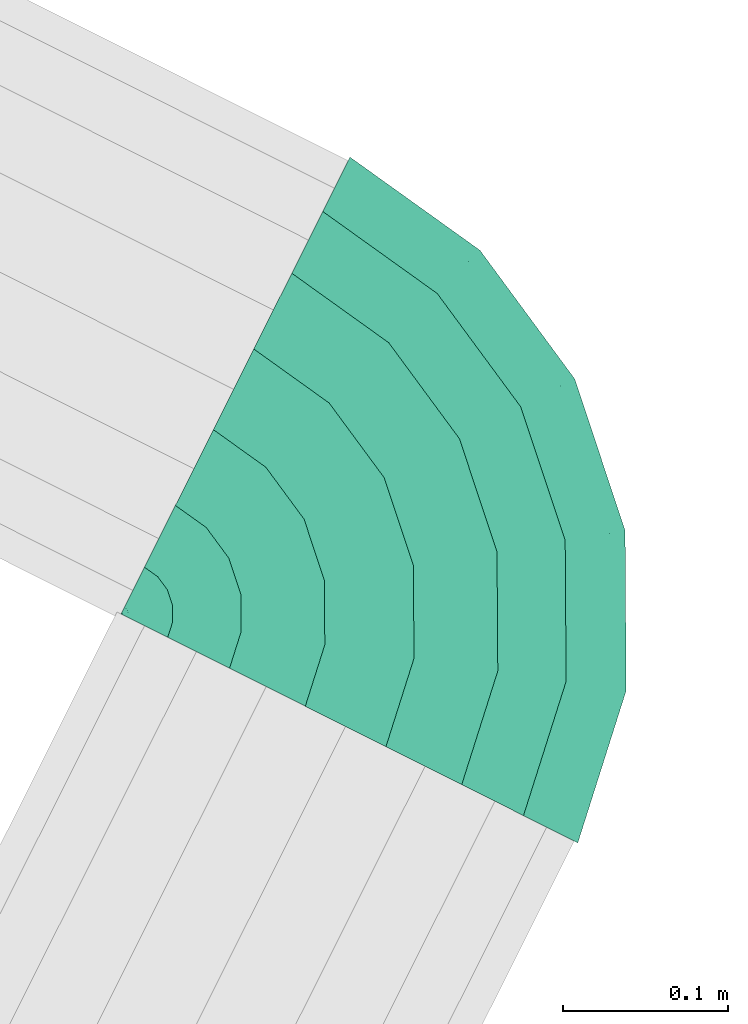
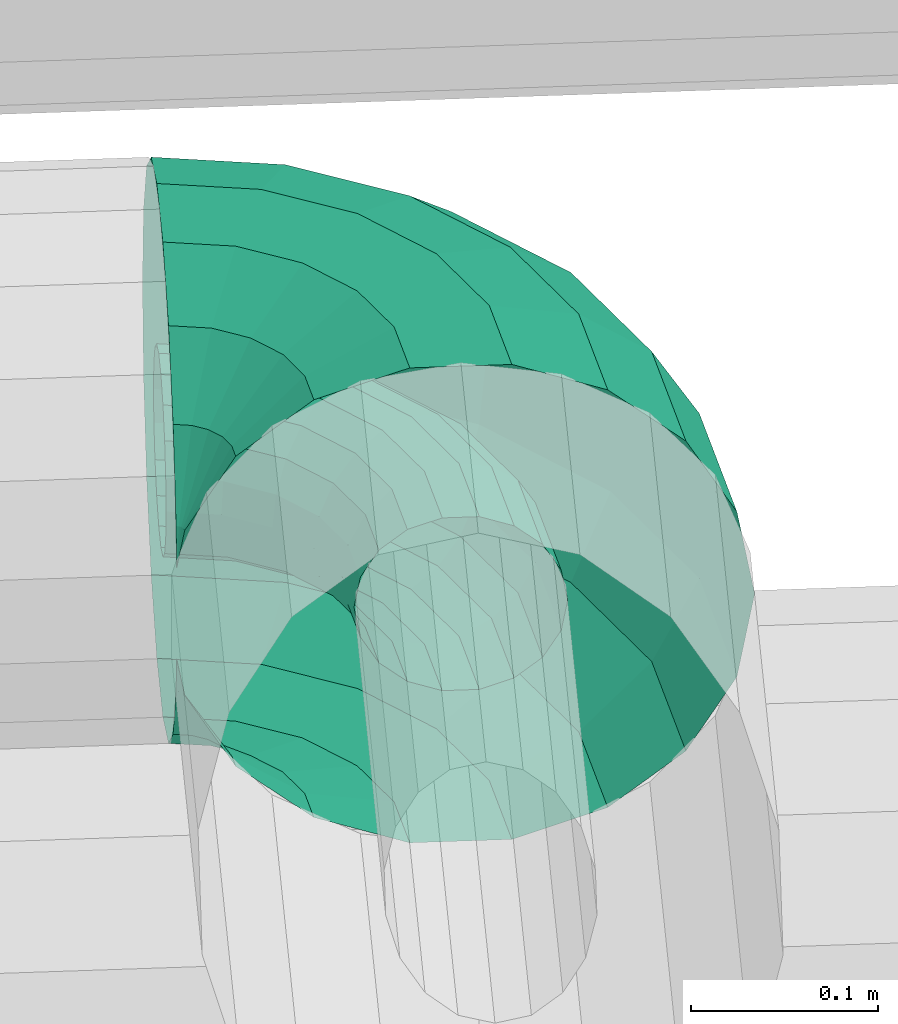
# One storey, part 57 of 152: 1 flow segment.
"""IFC2X3 building model written with IfcOpenShell, lengths in metres."""

import ifcopenshell
import ifcopenshell.guid

model = None  # the IFC model being written
_history = None  # IfcOwnerHistory: only IFC2X3 demands one
_inside = {}  # id of a spatial element -> (the spatial element, [elements in it])
_under = {}  # id of a project, library or spatial element -> (it, [spatial elements below it])
_declared = {}  # id of a project -> (the project, [libraries it declares])
_typed = {}  # id of a type object -> (the type object, [elements of that type])
_made_of = {}  # id of a material, layer set ... -> (it, [elements and type objects made of it])


def new_model(schema):
    """Start an empty IFC model of exactly this schema.

    Asked for "IFC4X3", IfcOpenShell would pick the latest addendum, in which some entities
    have other attributes; the version numbers below select the first issue.
    IFC2X3 requires an IfcOwnerHistory on every rooted entity: one is made here for all.
    """
    global model, _history
    if schema == "IFC4X3":
        model = ifcopenshell.file(schema_version=(4, 3, 0, 0))
    else:
        model = ifcopenshell.file(schema=schema)
    _inside.clear()
    _under.clear()
    _declared.clear()
    _typed.clear()
    _made_of.clear()
    _history = None
    if model.schema == "IFC2X3":
        org = make("IfcOrganization", Name="unknown")
        user = make(
            "IfcPersonAndOrganization",
            ThePerson=make("IfcPerson", FamilyName="unknown"),
            TheOrganization=org,
        )
        app = make(
            "IfcApplication",
            ApplicationDeveloper=org,
            Version="unknown",
            ApplicationFullName="unknown",
            ApplicationIdentifier="unknown",
        )
        _history = make(
            "IfcOwnerHistory",
            OwningUser=user,
            OwningApplication=app,
            ChangeAction="ADDED",
            CreationDate=0,
        )
    return model


def make(cls, **values):
    """One entity of the class cls with the attributes given. An attribute that is None is left unset."""
    return model.create_entity(
        cls, **{name: value for name, value in values.items() if value is not None}
    )


def rooted(cls, **values):
    """An entity with a GlobalId (a new one), such as an element, a storey or a relation."""
    return make(cls, GlobalId=ifcopenshell.guid.new(), OwnerHistory=_history, **values)


def si_unit(unit_type, name, prefix=None):
    """IfcSIUnit, for example si_unit("LENGTHUNIT", "METRE", prefix="MILLI")."""
    return make("IfcSIUnit", UnitType=unit_type, Prefix=prefix, Name=name)


def derived_unit(unit_type, elements):
    """IfcDerivedUnit: a product of units, each with its exponent."""
    return make(
        "IfcDerivedUnit",
        Elements=[
            make("IfcDerivedUnitElement", Unit=unit, Exponent=power)
            for unit, power in elements
        ],
        UnitType=unit_type,
    )


def assignment(units):
    """IfcUnitAssignment: the units of a project."""
    return None if units is None else make("IfcUnitAssignment", Units=units)


def point(xyz):
    """IfcCartesianPoint."""
    return None if xyz is None else make("IfcCartesianPoint", Coordinates=xyz)


def direction(xyz):
    """IfcDirection."""
    return None if xyz is None else make("IfcDirection", DirectionRatios=xyz)


def frame(location, z_axis=None, x_axis=None):
    """IfcAxis2Placement3D, a coordinate frame: its origin and axes. An axis left out is left unset."""
    return make(
        "IfcAxis2Placement3D",
        Location=point(location),
        Axis=direction(z_axis),
        RefDirection=direction(x_axis),
    )


def origin():
    """The frame at (0, 0, 0) with its axes left unset."""
    return frame((0.0, 0.0, 0.0))


def place(relative_to, where):
    """IfcLocalPlacement: puts the frame where relative to a parent placement (None: the world)."""
    return make(
        "IfcLocalPlacement", PlacementRelTo=relative_to, RelativePlacement=where
    )


def context(
    kind, dimensions, precision=None, world=None, true_north=None, identifier=None
):
    """IfcGeometricRepresentationContext, for example the 3D "Model" context."""
    return make(
        "IfcGeometricRepresentationContext",
        ContextIdentifier=identifier,
        ContextType=kind,
        CoordinateSpaceDimension=dimensions,
        Precision=precision,
        WorldCoordinateSystem=world,
        TrueNorth=true_north,
    )


def subcontext(parent, identifier, kind, view, scale=None):
    """IfcGeometricRepresentationSubContext, for example "Body" below "Model"."""
    return make(
        "IfcGeometricRepresentationSubContext",
        ContextIdentifier=identifier,
        ContextType=kind,
        ParentContext=parent,
        TargetScale=scale,
        TargetView=view,
    )


def project(units=None, contexts=None):
    """IfcProject with its units and contexts."""
    return rooted(
        "IfcProject",
        Name="project",
        RepresentationContexts=contexts,
        UnitsInContext=assignment(units),
    )


def spatial(cls, under=None, at=None, **own):
    """A site, building, storey or space (cls), placed at a placement, below another one or the project."""
    s = rooted(cls, ObjectPlacement=at, **own)
    if under is not None:
        _under.setdefault(under.id(), (under, []))[1].append(s)
    return s


def faces_of(points, faces, orient=None, outer=None):
    """IfcFace entities. A face is a list of loops; a loop is a list of indices into points, from 0.

    orient and outer hold one flag for each loop. By default every Orientation is true, the
    first loop of a face is its IfcFaceOuterBound and the others are IfcFaceBound.
    """
    made = []
    for i, loops in enumerate(faces):
        bounds = []
        for j, loop in enumerate(loops):
            is_outer = j == 0 if outer is None else outer[i][j]
            bounds.append(
                make(
                    "IfcFaceOuterBound" if is_outer else "IfcFaceBound",
                    Bound=make("IfcPolyLoop", Polygon=[points[k] for k in loop]),
                    Orientation=True if orient is None else orient[i][j],
                )
            )
        made.append(make("IfcFace", Bounds=bounds))
    return made


def face_set(faces, orient=None, outer=None):
    """The faces of one IfcConnectedFaceSet. surface_model builds it on its shared points."""
    return ("IfcConnectedFaceSet", faces, orient, outer)


def surface_model(cls, points, shells):
    """IfcFaceBasedSurfaceModel or IfcShellBasedSurfaceModel (cls): surfaces that need not close."""
    shared = [point(p) for p in points]
    made = [make(c, CfsFaces=faces_of(shared, fs, o, b)) for c, fs, o, b in shells]
    if cls == "IfcFaceBasedSurfaceModel":
        return make(cls, FbsmFaces=made)
    return make(cls, SbsmBoundary=made)


def shape(context_of_items, identifier, shape_type, items):
    """IfcShapeRepresentation: the items that make up one representation, for example the "Body"."""
    return make(
        "IfcShapeRepresentation",
        ContextOfItems=context_of_items,
        RepresentationIdentifier=identifier,
        RepresentationType=shape_type,
        Items=items,
    )


def source(mapping_origin, context_of_items, identifier, shape_type, items):
    """IfcRepresentationMap: a shape defined once, which mapped items show again and again."""
    return make(
        "IfcRepresentationMap",
        MappingOrigin=mapping_origin,
        MappedRepresentation=shape(context_of_items, identifier, shape_type, items),
    )


def transform(
    local_origin,
    x_axis=None,
    y_axis=None,
    z_axis=None,
    scale=None,
    scale2=None,
    scale3=None,
    uniform=True,
):
    """IfcCartesianTransformationOperator3D, or its non-uniform kind. x_axis, y_axis, z_axis: its Axis1, 2, 3."""
    if uniform:
        return make(
            "IfcCartesianTransformationOperator3D",
            Axis1=direction(x_axis),
            Axis2=direction(y_axis),
            LocalOrigin=point(local_origin),
            Scale=scale,
            Axis3=direction(z_axis),
        )
    return make(
        "IfcCartesianTransformationOperator3DnonUniform",
        Axis1=direction(x_axis),
        Axis2=direction(y_axis),
        LocalOrigin=point(local_origin),
        Scale=scale,
        Axis3=direction(z_axis),
        Scale2=scale2,
        Scale3=scale3,
    )


def mapped(mapping_source, mapping_target):
    """IfcMappedItem: shows the shape of a source again, moved by a transform."""
    return make(
        "IfcMappedItem", MappingSource=mapping_source, MappingTarget=mapping_target
    )


def material(Name=None, Category=None):
    """IfcMaterial."""
    return make("IfcMaterial", Name=Name, Category=Category)


def made_of(thing, what):
    """Note that an element or type object is made of a material, layer set ...; save() writes the relation."""
    if what is not None:
        _made_of.setdefault(what.id(), (what, []))[1].append(thing)
    return thing


def type_object(cls, material=None, **own):
    """A type object (cls), such as IfcWallType, which elements share."""
    return made_of(rooted(cls, **own), material)


def type_shapes(of_type, sources):
    """Give a type object the sources (RepresentationMaps) that its elements show as mapped items."""
    of_type.RepresentationMaps = sources


def element(
    cls,
    number,
    at=None,
    inside=None,
    cuts=None,
    type_object=None,
    material=None,
    context=None,
    identifier="Body",
    shape_type=None,
    held_by="IfcProductDefinitionShape",
    body=None,
    shapes=None,
    **own,
):
    """One element of the class cls, such as IfcWall. Its Tag is "e" and its number.

    at: its placement. inside: the storey or other place that contains it. cuts: it is an
    opening in that element (IfcRelVoidsElement). A single representation is given by context,
    identifier, shape_type and body (its items); several are given by shapes. held_by: the class
    of the entity that holds the representations. save() writes the other relations.
    """
    e = rooted(cls, Tag="e%d" % number, ObjectPlacement=at, **own)
    if body is not None:
        shapes = [shape(context, identifier, shape_type, body)]
    if shapes is not None:
        e.Representation = make(held_by, Representations=shapes)
    if inside is not None:
        _inside.setdefault(inside.id(), (inside, []))[1].append(e)
    if cuts is not None:
        rooted(
            "IfcRelVoidsElement", RelatingBuildingElement=cuts, RelatedOpeningElement=e
        )
    if type_object is not None:
        _typed.setdefault(type_object.id(), (type_object, []))[1].append(e)
    return made_of(e, material)


def aggregate(whole, parts):
    """IfcRelAggregates: a whole, such as a stair, and the parts it consists of."""
    return rooted("IfcRelAggregates", RelatingObject=whole, RelatedObjects=parts)


def save(model, path):
    """Write the relations noted so far, then the file.

    IfcRelAggregates (storeys below a building ...), IfcRelContainedInSpatialStructure (elements
    in a storey), IfcRelDefinesByType, IfcRelAssociatesMaterial and IfcRelDeclares: one each for
    every whole, place, type object, material and project.
    """
    for whole, parts in _under.values():
        aggregate(whole, parts)
    for where, things in _inside.values():
        rooted(
            "IfcRelContainedInSpatialStructure",
            RelatedElements=things,
            RelatingStructure=where,
        )
    for kind, things in _typed.values():
        rooted("IfcRelDefinesByType", RelatedObjects=things, RelatingType=kind)
    for what, things in _made_of.values():
        rooted("IfcRelAssociatesMaterial", RelatedObjects=things, RelatingMaterial=what)
    for by, libraries in _declared.values():
        rooted("IfcRelDeclares", RelatingContext=by, RelatedDefinitions=libraries)
    model.write(path)


model = new_model("IFC2X3")

# Units and contexts
model_context = context("Model", 3, precision=5.2338327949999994e-05, world=origin(), true_north=direction((0.0, 1.0)))
body_context = subcontext(model_context, "Body", "Model", "MODEL_VIEW")
ifc_project = project(units=[si_unit("LENGTHUNIT", "METRE"), si_unit("AREAUNIT", "SQUARE_METRE"), si_unit("VOLUMEUNIT", "CUBIC_METRE"), si_unit("MASSUNIT", "GRAM", prefix="KILO"), si_unit("PLANEANGLEUNIT", "RADIAN"), derived_unit("THERMALTRANSMITTANCEUNIT", [(si_unit("MASSUNIT", "GRAM", prefix="KILO"), 1), (si_unit("THERMODYNAMICTEMPERATUREUNIT", "KELVIN"), -1), (si_unit("TIMEUNIT", "SECOND"), -3)])], contexts=[model_context])

# Site, building, storey
site_placement = place(None, frame((0.0, 0.0, 0.0), z_axis=(0.0, 0.0, 1.0), x_axis=(0.8939966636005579, -0.4480736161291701, 0.0)))
site = spatial("IfcSite", under=ifc_project, at=site_placement, Name="Default", CompositionType="ELEMENT")
building_placement = place(site_placement, origin())
building = spatial("IfcBuilding", under=site, at=building_placement, CompositionType="ELEMENT")
storey_placement = place(building_placement, frame((0.0, 0.0, 2.7499999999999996)))
storey = spatial("IfcBuildingStorey", under=building, at=storey_placement, Name="1. Obergeschoss", CompositionType="ELEMENT", Elevation=2.7499999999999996)

# Flow segment
ifc_material = material(Name="IfcSurfaceStyle #9317")
distribution_element_type = type_object("IfcDistributionElementType", Name="Rohrbogen 226850:Rohrbogen 226850", material=ifc_material)
shared_shape = source(origin(), body_context, "Body", "SurfaceModel", [
    surface_model("IfcFaceBasedSurfaceModel", [(25.142614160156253, 6.678798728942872, 6.670399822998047), (25.152850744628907, 6.614167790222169, 6.670399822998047), (25.139335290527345, 6.6777336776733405, 6.6508533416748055), (25.149404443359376, 6.614167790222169, 6.6508533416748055), (25.11290667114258, 6.737103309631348, 6.670399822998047), (25.110118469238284, 6.735077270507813, 6.6508533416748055), (25.066635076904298, 6.783373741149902, 6.670399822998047), (25.064609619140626, 6.780585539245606, 6.6508533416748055), (25.00833165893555, 6.813081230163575, 6.670399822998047), (25.00726660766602, 6.809803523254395, 6.6508533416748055), (24.943700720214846, 6.823317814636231, 6.670399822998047), (24.943700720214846, 6.819871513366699, 6.6508533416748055), (25.139479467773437, 6.614167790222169, 6.633664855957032), (25.129896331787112, 6.674667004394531, 6.633664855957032), (25.10208872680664, 6.729244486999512, 6.633664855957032), (25.05877741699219, 6.772556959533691, 6.633664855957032), (25.004199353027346, 6.800365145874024, 6.633664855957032), (24.943700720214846, 6.809947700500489, 6.633664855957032), (25.124275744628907, 6.614167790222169, 6.620906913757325), (25.11543674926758, 6.669968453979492, 6.620906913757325), (25.08978715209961, 6.720307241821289, 6.620906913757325), (25.049838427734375, 6.760255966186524, 6.620906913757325), (24.99949963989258, 6.785904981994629, 6.620906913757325), (24.943700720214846, 6.794742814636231, 6.620906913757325), (25.105623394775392, 6.614167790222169, 6.614118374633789), (25.09769829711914, 6.664205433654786, 6.614118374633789), (25.074699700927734, 6.709344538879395, 6.614118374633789), (25.038876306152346, 6.7451673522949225, 6.614118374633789), (24.993737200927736, 6.768167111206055, 6.614118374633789), (24.943700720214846, 6.7760922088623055, 6.614118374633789), (25.08577576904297, 6.614167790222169, 6.614118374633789), (25.078822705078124, 6.658072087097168, 6.614118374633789), (25.058642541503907, 6.69767839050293, 6.614118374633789), (25.027209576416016, 6.729109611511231, 6.614118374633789), (24.987605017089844, 6.749290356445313, 6.614118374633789), (24.943700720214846, 6.75624400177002, 6.614118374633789), (25.06108425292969, 6.652308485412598, 6.620906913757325), (25.067125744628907, 6.614167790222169, 6.620906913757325), (25.043552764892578, 6.686715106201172, 6.620906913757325), (25.016247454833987, 6.714020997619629, 6.620906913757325), (24.981840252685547, 6.731551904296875, 6.620906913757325), (24.943700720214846, 6.737592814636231, 6.620906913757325), (25.046624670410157, 6.647609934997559, 6.633664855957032), (25.051919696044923, 6.614167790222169, 6.633664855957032), (25.031251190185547, 6.677778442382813, 6.633664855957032), (25.007310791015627, 6.701720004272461, 6.633664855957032), (24.977142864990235, 6.717091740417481, 6.633664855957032), (24.943700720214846, 6.722388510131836, 6.633664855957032), (25.041997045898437, 6.614167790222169, 6.6508533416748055), (25.037185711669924, 6.64454326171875, 6.6508533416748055), (25.02322377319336, 6.671945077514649, 6.6508533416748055), (25.001476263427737, 6.693691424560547, 6.6508533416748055), (24.974075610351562, 6.707653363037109, 6.6508533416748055), (24.943700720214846, 6.7124646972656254, 6.6508533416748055), (25.033906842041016, 6.643478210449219, 6.670399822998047), (25.038550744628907, 6.614167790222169, 6.670399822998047), (25.020435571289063, 6.669919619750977, 6.670399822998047), (24.999450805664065, 6.69090322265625, 6.670399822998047), (24.97301055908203, 6.70437565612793, 6.670399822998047), (24.943700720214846, 6.709017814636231, 6.670399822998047), (25.037185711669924, 6.64454326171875, 6.689946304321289), (25.041997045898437, 6.614167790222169, 6.689946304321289), (25.02322377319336, 6.671945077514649, 6.689946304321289), (25.001476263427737, 6.693691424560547, 6.689946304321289), (24.974075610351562, 6.707653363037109, 6.689946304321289), (24.943700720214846, 6.7124646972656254, 6.689946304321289), (25.051919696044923, 6.614167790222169, 6.707135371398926), (25.046624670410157, 6.647609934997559, 6.707135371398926), (25.031251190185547, 6.677778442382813, 6.707135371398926), (25.007310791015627, 6.701720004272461, 6.707135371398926), (24.977142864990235, 6.717091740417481, 6.707135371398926), (24.943700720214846, 6.722388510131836, 6.707135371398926), (25.067125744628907, 6.614167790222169, 6.719893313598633), (25.06108425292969, 6.652308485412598, 6.719893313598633), (25.043552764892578, 6.686715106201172, 6.719893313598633), (25.016247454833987, 6.714020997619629, 6.719893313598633), (24.981840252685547, 6.731551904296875, 6.719893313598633), (24.943700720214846, 6.737592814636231, 6.719893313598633), (25.08577576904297, 6.614167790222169, 6.726681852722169), (25.078822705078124, 6.658072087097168, 6.726681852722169), (25.058642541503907, 6.69767839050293, 6.726681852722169), (25.027209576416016, 6.729109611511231, 6.726681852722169), (24.987605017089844, 6.749290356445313, 6.726681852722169), (24.943700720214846, 6.75624400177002, 6.726681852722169), (25.105623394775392, 6.614167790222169, 6.726681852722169), (25.09769829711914, 6.664205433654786, 6.726681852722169), (25.074699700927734, 6.709344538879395, 6.726681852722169), (25.038876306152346, 6.7451673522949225, 6.726681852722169), (24.993737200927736, 6.768167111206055, 6.726681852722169), (24.943700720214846, 6.7760922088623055, 6.726681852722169), (25.11543674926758, 6.669968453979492, 6.719893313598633), (25.124275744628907, 6.614167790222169, 6.719893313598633), (25.08978715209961, 6.720307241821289, 6.719893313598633), (25.049838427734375, 6.760255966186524, 6.719893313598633), (24.99949963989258, 6.785904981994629, 6.719893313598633), (24.943700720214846, 6.794742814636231, 6.719893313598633), (25.129896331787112, 6.674667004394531, 6.707135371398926), (25.139479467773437, 6.614167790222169, 6.707135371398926), (25.10208872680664, 6.729244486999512, 6.707135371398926), (25.05877741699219, 6.772556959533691, 6.707135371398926), (25.004199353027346, 6.800365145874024, 6.707135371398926), (24.943700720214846, 6.809947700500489, 6.707135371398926), (25.139335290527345, 6.6777336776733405, 6.689946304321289), (25.149404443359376, 6.614167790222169, 6.689946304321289), (25.110118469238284, 6.735077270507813, 6.689946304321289), (25.064609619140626, 6.780585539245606, 6.689946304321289), (25.00726660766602, 6.809803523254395, 6.689946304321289), (24.943700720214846, 6.819871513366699, 6.689946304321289), (25.237719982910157, 6.709700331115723, 6.670399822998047), (25.252849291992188, 6.614167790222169, 6.670399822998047), (25.243373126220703, 6.614167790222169, 6.616651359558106), (25.228706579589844, 6.706772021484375, 6.616651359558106), (25.193808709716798, 6.795881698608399, 6.670399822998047), (25.186139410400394, 6.790311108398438, 6.616651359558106), (25.125412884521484, 6.864275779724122, 6.670399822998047), (25.11984345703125, 6.856608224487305, 6.616651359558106), (25.039232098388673, 6.908187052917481, 6.670399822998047), (25.03630437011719, 6.899173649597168, 6.616651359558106), (24.943700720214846, 6.923318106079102, 6.670399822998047), (24.943700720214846, 6.913840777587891, 6.616651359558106), (25.216084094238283, 6.614167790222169, 6.569385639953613), (25.202752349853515, 6.698339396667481, 6.569385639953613), (25.164064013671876, 6.774271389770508, 6.569385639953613), (25.103802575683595, 6.8345310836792, 6.569385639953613), (25.02787232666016, 6.873220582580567, 6.569385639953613), (24.943700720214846, 6.886551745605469, 6.569385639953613), (25.162989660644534, 6.6854198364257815, 6.53430406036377), (25.17427501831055, 6.614167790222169, 6.53430406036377), (25.13023817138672, 6.749696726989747, 6.53430406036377), (25.079229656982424, 6.800706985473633, 6.53430406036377), (25.014952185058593, 6.833457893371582, 6.53430406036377), (24.943700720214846, 6.844743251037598, 6.53430406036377), (25.12298977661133, 6.614167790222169, 6.515637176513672), (25.114213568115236, 6.669571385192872, 6.515637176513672), (25.088747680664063, 6.719551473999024, 6.515637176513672), (25.04908265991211, 6.759215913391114, 6.515637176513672), (24.999104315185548, 6.784681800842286, 6.515637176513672), (24.943700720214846, 6.7934568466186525, 6.515637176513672), (25.068411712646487, 6.614167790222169, 6.515637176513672), (25.062307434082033, 6.652706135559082, 6.515637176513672), (25.04459456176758, 6.687471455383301, 6.515637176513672), (25.01700322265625, 6.715061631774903, 6.515637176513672), (24.982237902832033, 6.732775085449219, 6.515637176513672), (24.943700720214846, 6.738879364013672, 6.515637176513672), (25.017124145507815, 6.614167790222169, 6.53430406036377), (25.013531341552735, 6.636857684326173, 6.53430406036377), (25.00310174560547, 6.6573262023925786, 6.53430406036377), (24.986858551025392, 6.6735699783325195, 6.53430406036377), (24.966390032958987, 6.6839995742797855, 6.53430406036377), (24.943700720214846, 6.687592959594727, 6.53430406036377), (24.97531506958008, 6.614167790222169, 6.569385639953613), (24.97376865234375, 6.623938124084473, 6.569385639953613), (24.969278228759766, 6.632751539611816, 6.569385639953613), (24.962283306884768, 6.639745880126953, 6.569385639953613), (24.95346989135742, 6.644236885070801, 6.569385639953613), (24.943700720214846, 6.645783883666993, 6.569385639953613), (24.94802836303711, 6.614167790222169, 6.616651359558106), (24.947814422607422, 6.615504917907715, 6.616651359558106), (24.9472005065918, 6.616711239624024, 6.616651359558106), (24.94624242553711, 6.617668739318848, 6.616651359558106), (24.94503784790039, 6.618283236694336, 6.616651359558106), (24.943700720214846, 6.618495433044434, 6.616651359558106), (24.943700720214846, 6.614167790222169, 6.641194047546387), (24.943700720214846, 6.614911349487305, 6.64052664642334), (24.943700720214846, 6.614167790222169, 6.699606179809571), (24.943700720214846, 6.614911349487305, 6.700273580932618), (24.947814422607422, 6.615504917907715, 6.7241482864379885), (24.94802836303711, 6.614167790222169, 6.7241482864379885), (24.9472005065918, 6.616711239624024, 6.7241482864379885), (24.94624242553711, 6.617668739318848, 6.7241482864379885), (24.94503784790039, 6.618283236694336, 6.7241482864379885), (24.943700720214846, 6.618495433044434, 6.7241482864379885), (24.97376865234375, 6.623938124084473, 6.771414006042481), (24.97531506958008, 6.614167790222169, 6.771414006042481), (24.969278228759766, 6.632751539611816, 6.771414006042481), (24.962283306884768, 6.639745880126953, 6.771414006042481), (24.95346989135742, 6.644236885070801, 6.771414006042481), (24.943700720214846, 6.645783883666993, 6.771414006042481), (25.013531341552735, 6.636857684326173, 6.806496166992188), (25.017124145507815, 6.614167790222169, 6.806496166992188), (25.00310174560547, 6.6573262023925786, 6.806496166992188), (24.986858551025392, 6.6735699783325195, 6.806496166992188), (24.966390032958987, 6.6839995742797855, 6.806496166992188), (24.943700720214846, 6.687592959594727, 6.806496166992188), (25.062307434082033, 6.652706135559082, 6.8251624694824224), (25.068411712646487, 6.614167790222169, 6.8251624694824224), (25.04459456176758, 6.687471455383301, 6.8251624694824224), (25.01700322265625, 6.715061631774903, 6.8251624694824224), (24.982237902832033, 6.732775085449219, 6.8251624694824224), (24.943700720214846, 6.738879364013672, 6.8251624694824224), (25.12298977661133, 6.614167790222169, 6.8251624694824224), (25.114213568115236, 6.669571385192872, 6.8251624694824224), (25.088747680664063, 6.719551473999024, 6.8251624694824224), (25.04908265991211, 6.759215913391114, 6.8251624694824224), (24.999104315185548, 6.784681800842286, 6.8251624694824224), (24.943700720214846, 6.7934568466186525, 6.8251624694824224), (25.162989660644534, 6.6854198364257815, 6.806496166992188), (25.17427501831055, 6.614167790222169, 6.806496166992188), (25.13023817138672, 6.749696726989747, 6.806496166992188), (25.079229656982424, 6.800706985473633, 6.806496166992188), (25.014952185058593, 6.833457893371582, 6.806496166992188), (24.943700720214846, 6.844743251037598, 6.806496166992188), (25.202752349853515, 6.698339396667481, 6.771414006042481), (25.216084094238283, 6.614167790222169, 6.771414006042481), (25.164064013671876, 6.774271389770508, 6.771414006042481), (25.103802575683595, 6.8345310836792, 6.771414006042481), (25.02787232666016, 6.873220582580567, 6.771414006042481), (24.943700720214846, 6.886551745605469, 6.771414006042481), (25.228706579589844, 6.706772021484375, 6.7241482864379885), (25.243373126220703, 6.614167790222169, 6.7241482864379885), (25.186139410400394, 6.790311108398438, 6.7241482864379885), (25.11984345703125, 6.856608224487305, 6.7241482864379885), (25.03630437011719, 6.899173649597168, 6.7241482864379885), (24.943700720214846, 6.913840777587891, 6.7241482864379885)], [face_set([[[0, 1, 2]], [[3, 2, 1]], [[4, 0, 5]], [[2, 5, 0]], [[6, 4, 7]], [[5, 7, 4]], [[8, 6, 7]], [[7, 9, 8]], [[10, 8, 9]], [[9, 11, 10]], [[2, 3, 12]], [[12, 13, 2]], [[5, 2, 13]], [[13, 14, 5]], [[7, 5, 15]], [[14, 15, 5]], [[9, 7, 16]], [[15, 16, 7]], [[11, 9, 17]], [[16, 17, 9]], [[13, 12, 18]], [[18, 19, 13]], [[14, 13, 20]], [[19, 20, 13]], [[15, 14, 21]], [[20, 21, 14]], [[16, 15, 21]], [[21, 22, 16]], [[17, 16, 22]], [[22, 23, 17]], [[19, 18, 24]], [[24, 25, 19]], [[20, 19, 25]], [[25, 26, 20]], [[21, 20, 26]], [[26, 27, 21]], [[22, 21, 27]], [[27, 28, 22]], [[23, 22, 28]], [[28, 29, 23]], [[25, 24, 30]], [[30, 31, 25]], [[26, 25, 32]], [[31, 32, 25]], [[27, 26, 33]], [[32, 33, 26]], [[28, 27, 34]], [[33, 34, 27]], [[29, 28, 34]], [[34, 35, 29]], [[31, 30, 36]], [[37, 36, 30]], [[32, 31, 38]], [[36, 38, 31]], [[33, 32, 38]], [[38, 39, 33]], [[34, 33, 40]], [[39, 40, 33]], [[35, 34, 41]], [[40, 41, 34]], [[36, 37, 42]], [[43, 42, 37]], [[38, 36, 44]], [[42, 44, 36]], [[39, 38, 45]], [[44, 45, 38]], [[40, 39, 46]], [[45, 46, 39]], [[41, 40, 47]], [[46, 47, 40]], [[42, 43, 48]], [[48, 49, 42]], [[44, 42, 49]], [[49, 50, 44]], [[45, 44, 50]], [[50, 51, 45]], [[46, 45, 51]], [[51, 52, 46]], [[47, 46, 52]], [[52, 53, 47]], [[49, 48, 54]], [[55, 54, 48]], [[50, 49, 56]], [[54, 56, 49]], [[51, 50, 57]], [[56, 57, 50]], [[52, 51, 57]], [[57, 58, 52]], [[53, 52, 58]], [[58, 59, 53]], [[54, 55, 60]], [[61, 60, 55]], [[56, 54, 60]], [[60, 62, 56]], [[57, 56, 62]], [[62, 63, 57]], [[58, 57, 64]], [[63, 64, 57]], [[59, 58, 65]], [[64, 65, 58]], [[60, 61, 66]], [[66, 67, 60]], [[62, 60, 68]], [[67, 68, 60]], [[63, 62, 68]], [[68, 69, 63]], [[64, 63, 69]], [[69, 70, 64]], [[65, 64, 71]], [[70, 71, 64]], [[67, 66, 72]], [[72, 73, 67]], [[68, 67, 74]], [[73, 74, 67]], [[69, 68, 75]], [[74, 75, 68]], [[70, 69, 76]], [[75, 76, 69]], [[71, 70, 77]], [[76, 77, 70]], [[73, 72, 78]], [[78, 79, 73]], [[74, 73, 79]], [[79, 80, 74]], [[75, 74, 80]], [[80, 81, 75]], [[76, 75, 81]], [[81, 82, 76]], [[77, 76, 82]], [[82, 83, 77]], [[79, 78, 84]], [[84, 85, 79]], [[80, 79, 86]], [[85, 86, 79]], [[81, 80, 87]], [[86, 87, 80]], [[82, 81, 88]], [[87, 88, 81]], [[83, 82, 88]], [[88, 89, 83]], [[85, 84, 90]], [[91, 90, 84]], [[86, 85, 92]], [[90, 92, 85]], [[87, 86, 93]], [[92, 93, 86]], [[88, 87, 94]], [[93, 94, 87]], [[89, 88, 95]], [[94, 95, 88]], [[90, 91, 96]], [[97, 96, 91]], [[92, 90, 96]], [[96, 98, 92]], [[93, 92, 98]], [[98, 99, 93]], [[94, 93, 100]], [[99, 100, 93]], [[95, 94, 101]], [[100, 101, 94]], [[96, 97, 102]], [[103, 102, 97]], [[98, 96, 104]], [[102, 104, 96]], [[99, 98, 105]], [[104, 105, 98]], [[100, 99, 105]], [[105, 106, 100]], [[101, 100, 106]], [[106, 107, 101]], [[102, 103, 1]], [[1, 0, 102]], [[104, 102, 0]], [[0, 4, 104]], [[105, 104, 4]], [[4, 6, 105]], [[106, 105, 8]], [[6, 8, 105]], [[107, 106, 10]], [[8, 10, 106]], [[108, 109, 110]], [[110, 111, 108]], [[112, 108, 113]], [[111, 113, 108]], [[114, 112, 115]], [[113, 115, 112]], [[116, 114, 115]], [[115, 117, 116]], [[118, 116, 117]], [[117, 119, 118]], [[111, 110, 120]], [[120, 121, 111]], [[113, 111, 122]], [[121, 122, 111]], [[115, 113, 122]], [[122, 123, 115]], [[117, 115, 123]], [[123, 124, 117]], [[119, 117, 124]], [[124, 125, 119]], [[121, 120, 126]], [[127, 126, 120]], [[122, 121, 126]], [[126, 128, 122]], [[123, 122, 128]], [[128, 129, 123]], [[124, 123, 129]], [[129, 130, 124]], [[125, 124, 131]], [[130, 131, 124]], [[126, 127, 132]], [[132, 133, 126]], [[128, 126, 134]], [[133, 134, 126]], [[129, 128, 134]], [[134, 135, 129]], [[130, 129, 135]], [[135, 136, 130]], [[131, 130, 137]], [[136, 137, 130]], [[133, 132, 138]], [[138, 139, 133]], [[134, 133, 140]], [[139, 140, 133]], [[135, 134, 140]], [[140, 141, 135]], [[136, 135, 141]], [[141, 142, 136]], [[137, 136, 142]], [[142, 143, 137]], [[139, 138, 144]], [[144, 145, 139]], [[140, 139, 146]], [[145, 146, 139]], [[141, 140, 147]], [[146, 147, 140]], [[142, 141, 147]], [[147, 148, 142]], [[143, 142, 148]], [[148, 149, 143]], [[145, 144, 150]], [[150, 151, 145]], [[146, 145, 152]], [[151, 152, 145]], [[147, 146, 152]], [[152, 153, 147]], [[148, 147, 153]], [[153, 154, 148]], [[149, 148, 154]], [[154, 155, 149]], [[151, 150, 156]], [[156, 157, 151]], [[152, 151, 158]], [[157, 158, 151]], [[153, 152, 158]], [[158, 159, 153]], [[154, 153, 159]], [[159, 160, 154]], [[155, 154, 160]], [[160, 161, 155]], [[162, 157, 163]], [[162, 163, 156]], [[157, 156, 163]], [[158, 157, 162]], [[159, 158, 162]], [[160, 159, 162]], [[161, 160, 162]], [[164, 165, 166]], [[167, 166, 165]], [[165, 164, 167]], [[166, 168, 164]], [[164, 168, 169]], [[169, 170, 164]], [[170, 171, 164]], [[166, 167, 172]], [[173, 172, 167]], [[168, 166, 172]], [[172, 174, 168]], [[169, 168, 175]], [[174, 175, 168]], [[170, 169, 176]], [[175, 176, 169]], [[171, 170, 177]], [[176, 177, 170]], [[172, 173, 178]], [[179, 178, 173]], [[174, 172, 178]], [[178, 180, 174]], [[175, 174, 181]], [[180, 181, 174]], [[176, 175, 181]], [[181, 182, 176]], [[177, 176, 182]], [[182, 183, 177]], [[178, 179, 184]], [[185, 184, 179]], [[180, 178, 186]], [[184, 186, 178]], [[181, 180, 186]], [[186, 187, 181]], [[182, 181, 188]], [[187, 188, 181]], [[183, 182, 189]], [[188, 189, 182]], [[184, 185, 190]], [[190, 191, 184]], [[186, 184, 191]], [[191, 192, 186]], [[187, 186, 193]], [[192, 193, 186]], [[188, 187, 194]], [[193, 194, 187]], [[189, 188, 195]], [[194, 195, 188]], [[191, 190, 196]], [[197, 196, 190]], [[192, 191, 196]], [[196, 198, 192]], [[193, 192, 199]], [[198, 199, 192]], [[194, 193, 199]], [[199, 200, 194]], [[195, 194, 200]], [[200, 201, 195]], [[196, 197, 202]], [[203, 202, 197]], [[198, 196, 202]], [[202, 204, 198]], [[199, 198, 205]], [[204, 205, 198]], [[200, 199, 206]], [[205, 206, 199]], [[201, 200, 207]], [[206, 207, 200]], [[202, 203, 208]], [[209, 208, 203]], [[204, 202, 208]], [[208, 210, 204]], [[205, 204, 210]], [[210, 211, 205]], [[206, 205, 212]], [[211, 212, 205]], [[207, 206, 213]], [[212, 213, 206]], [[208, 209, 109]], [[109, 108, 208]], [[210, 208, 112]], [[108, 112, 208]], [[211, 210, 114]], [[112, 114, 210]], [[212, 211, 116]], [[114, 116, 211]], [[213, 212, 118]], [[116, 118, 212]]])]),
])
type_shapes(distribution_element_type, [shared_shape])
flow_segment_placement = place(storey_placement, frame((0.0, 0.0, -2.7499999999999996)))
element("IfcFlowSegment", 1, at=flow_segment_placement, inside=storey, type_object=distribution_element_type, material=ifc_material, Name="Rohrbogen", ObjectType="Rohrbogen", context=body_context, shape_type="MappedRepresentation", body=[
    mapped(shared_shape, transform((0.0, 0.0, 0.0), scale=1.0)),
])

save(model, "model.ifc")
